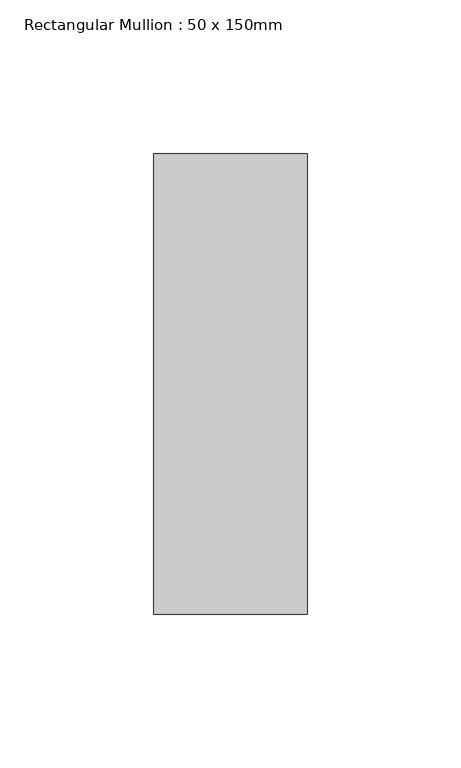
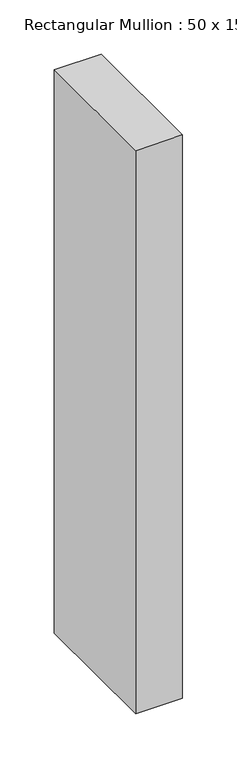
"""IFC4 building model written with IfcOpenShell, lengths in millimetres: member geometry, Rectangular Mullion : 50 x 150mm."""

from ifc_helpers import new_model, si_unit, frame, origin, place, context, project, spatial, polyline, outline, extrude, source, transform, mapped, element, save


def rectangular_mullion_50_x_150mm_2b21d210(model_context):
    return source(origin(), model_context, "Body", "SweptSolid", [
        extrude(outline(polyline([(0.0, 75.0), (0.0, -75.0), (-50.0, -75.0), (-50.0, 75.0), (0.0, 75.0)])), frame((0.0, 0.0, -634.1666669), z_axis=(0.0, 0.0, 1.0), x_axis=(1.0, 0.0, 0.0)), (0.0, 0.0, 1.0), 634.1666669),
    ])


if __name__ == "__main__":
    model = new_model("IFC4")
    model_context = context("Model", 3, world=origin())
    ifc_project = project(units=[si_unit("LENGTHUNIT", "METRE", prefix="MILLI")], contexts=[model_context])
    site = spatial("IfcSite", under=ifc_project)
    building = spatial("IfcBuilding", under=site)
    placement = place(None, origin())
    rectangular_mullion_50_x_150mm_shape = rectangular_mullion_50_x_150mm_2b21d210(model_context)
    element("IfcMember", 1, ObjectType="Rectangular Mullion : 50 x 150mm", at=placement, inside=building, context=model_context, shape_type="MappedRepresentation", body=[
        mapped(rectangular_mullion_50_x_150mm_shape, transform((0.0, 0.0, 0.0), x_axis=(1.0, 0.0, 0.0), y_axis=(0.0, 1.0, 0.0), z_axis=(0.0, 0.0, 1.0))),
    ])
    save(model, "model.ifc")
